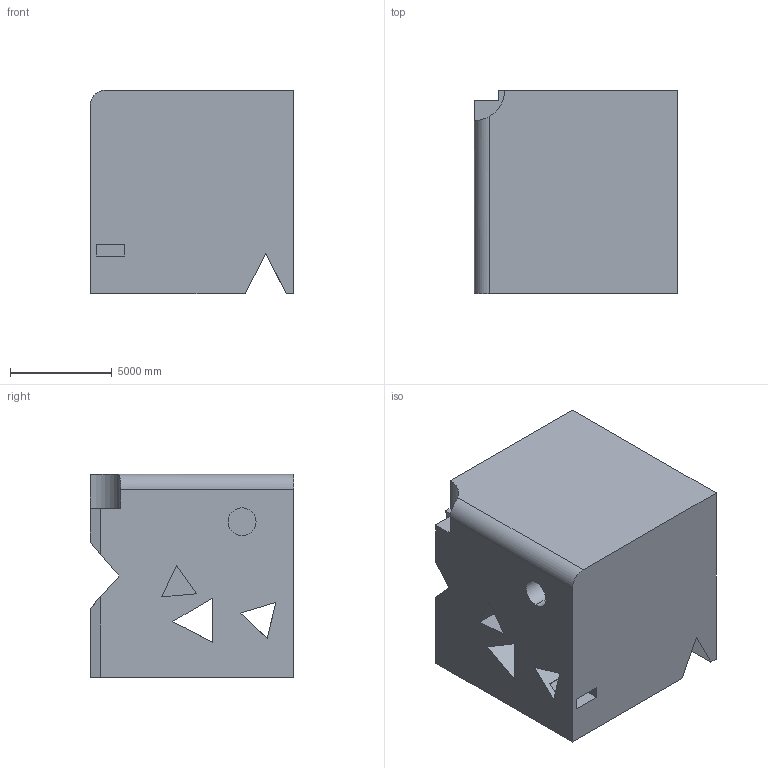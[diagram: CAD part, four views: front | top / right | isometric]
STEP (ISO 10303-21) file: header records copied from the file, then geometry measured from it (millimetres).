
FILE_DESCRIPTION (( 'STEP AP203' ), '1' );
FILE_NAME ('195.STEP', '2022-09-06T16:20:09', ( 'user' ), ( '' ), 'SwSTEP 2.0', 'SolidWorks 2021', '' );
FILE_SCHEMA (( 'CONFIG_CONTROL_DESIGN' ));
Length unit declared in the file: centimetre
Products named in the file (1): 195
Bounding box: 10000 x 10000 x 10000 mm (x, y, z)
Volume: 895803689882 mm3; surface area: 797142441.1 mm2
Topology: 1 solids, 1 shells, 38 faces, 117 edges, 78 vertices
Faces by surface type: plane 34, cylinder 4
Entity records: 1438 total; most frequent: CARTESIAN_POINT 289, ORIENTED_EDGE 234, DIRECTION 201, EDGE_CURVE 117, VECTOR 109, LINE 109, VERTEX_POINT 78, AXIS2_PLACEMENT_3D 46
